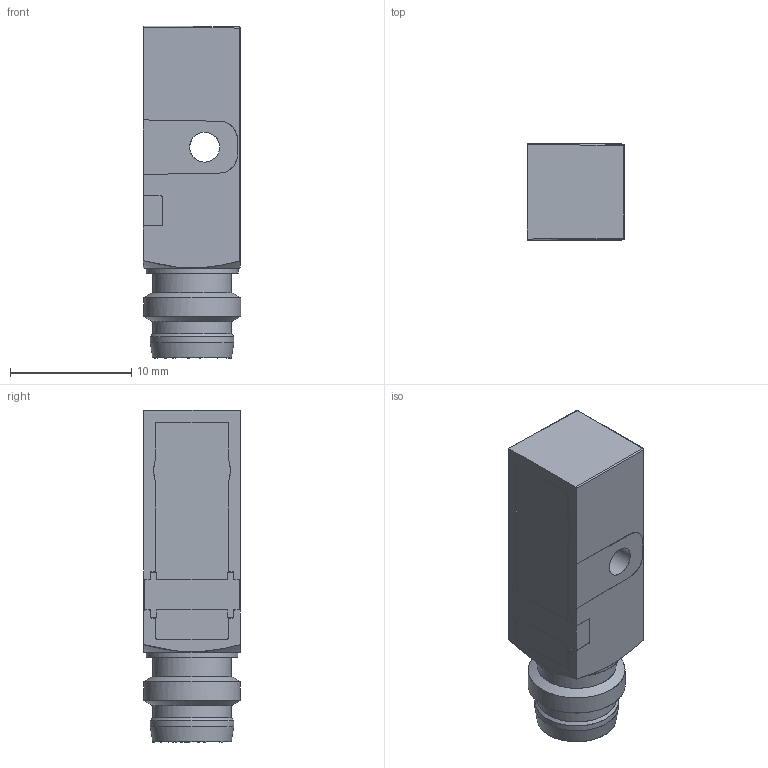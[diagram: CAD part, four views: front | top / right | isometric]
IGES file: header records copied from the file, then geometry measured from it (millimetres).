
Start section: C
Global section: file name: IFFM 08xxxA5_O1S35L_G2.igs; native system:  By UGS Corp.; preprocessor: XPlus GENERIC/IGES 3.0; author: Author; organization: Title; date: 20140204.112528; units: millimetre
Bounding box: 8.01 x 8 x 27.4 mm (x, y, z)
Surface area: 1125.8 mm2 (no closed solid volume)
Topology: 0 solids, 0 shells, 186 faces, 1070 edges, 1068 vertices
Faces by surface type: bspline 186
